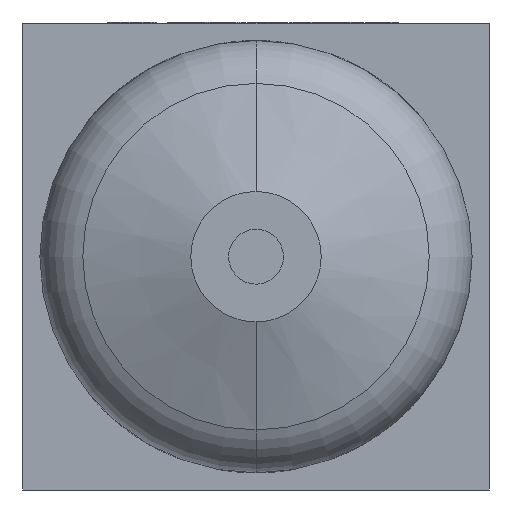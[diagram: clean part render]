
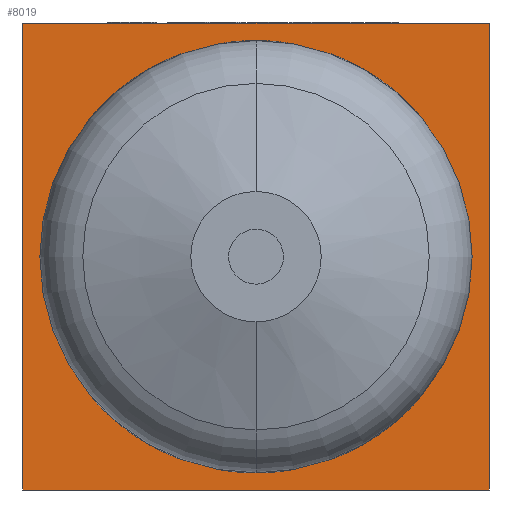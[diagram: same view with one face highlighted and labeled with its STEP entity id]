
A CAD part, front view. The second image highlights one B-rep face of the part: STEP entity #8019.
In plain terms, the highlighted planar face has unit normal (0, -1, 0).
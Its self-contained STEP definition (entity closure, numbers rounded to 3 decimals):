
#166 = VECTOR ( 'NONE', #3281, 1000. ) ;
#200 = CARTESIAN_POINT ( 'NONE',  ( -34., -34., -34. ) ) ;
#406 = LINE ( 'NONE', #4785, #166 ) ;
#782 = CARTESIAN_POINT ( 'NONE',  ( -34., -34., -34. ) ) ;
#1030 = LINE ( 'NONE', #200, #5022 ) ;
#1394 = LINE ( 'NONE', #9712, #2137 ) ;
#1625 = VERTEX_POINT ( 'NONE', #10375 ) ;
#2137 = VECTOR ( 'NONE', #6426, 1000. ) ;
#2155 = AXIS2_PLACEMENT_3D ( 'NONE', #4279, #9869, #5079 ) ;
#2672 = EDGE_CURVE ( 'NONE', #4365, #1625, #1394, .T. ) ;
#3281 = DIRECTION ( 'NONE',  ( 0., 0., -1. ) ) ;
#4192 = EDGE_LOOP ( 'NONE', ( #7789, #7468, #4681, #6361 ) ) ;
#4228 = FACE_OUTER_BOUND ( 'NONE', #4192, .T. ) ;
#4279 = CARTESIAN_POINT ( 'NONE',  ( -34., -34., 34. ) ) ;
#4281 = DIRECTION ( 'NONE',  ( 1., 0., 0. ) ) ;
#4365 = VERTEX_POINT ( 'NONE', #7633 ) ;
#4520 = LINE ( 'NONE', #8322, #8408 ) ;
#4623 = EDGE_CURVE ( 'NONE', #4365, #6166, #406, .T. ) ;
#4681 = ORIENTED_EDGE ( 'NONE', *, *, #2672, .F. ) ;
#4785 = CARTESIAN_POINT ( 'NONE',  ( -34., -34., 34. ) ) ;
#5022 = VECTOR ( 'NONE', #4281, 1000. ) ;
#5079 = DIRECTION ( 'NONE',  ( 0., 0., 1. ) ) ;
#5476 = CARTESIAN_POINT ( 'NONE',  ( 34., -34., -34. ) ) ;
#5533 = EDGE_CURVE ( 'NONE', #6166, #8236, #1030, .T. ) ;
#5805 = EDGE_CURVE ( 'NONE', #1625, #8236, #4520, .T. ) ;
#6166 = VERTEX_POINT ( 'NONE', #782 ) ;
#6361 = ORIENTED_EDGE ( 'NONE', *, *, #4623, .T. ) ;
#6426 = DIRECTION ( 'NONE',  ( 1., 0., 0. ) ) ;
#6692 = DIRECTION ( 'NONE',  ( 0., 0., -1. ) ) ;
#7468 = ORIENTED_EDGE ( 'NONE', *, *, #5805, .F. ) ;
#7633 = CARTESIAN_POINT ( 'NONE',  ( -34., -34., 34. ) ) ;
#7789 = ORIENTED_EDGE ( 'NONE', *, *, #5533, .T. ) ;
#8019 = ADVANCED_FACE ( 'NONE', ( #4228 ), #9027, .F. ) ;
#8236 = VERTEX_POINT ( 'NONE', #5476 ) ;
#8322 = CARTESIAN_POINT ( 'NONE',  ( 34., -34., 34. ) ) ;
#8408 = VECTOR ( 'NONE', #6692, 1000. ) ;
#9027 = PLANE ( 'NONE',  #2155 ) ;
#9712 = CARTESIAN_POINT ( 'NONE',  ( -34., -34., 34. ) ) ;
#9869 = DIRECTION ( 'NONE',  ( 0., 1., 0. ) ) ;
#10375 = CARTESIAN_POINT ( 'NONE',  ( 34., -34., 34. ) ) ;
